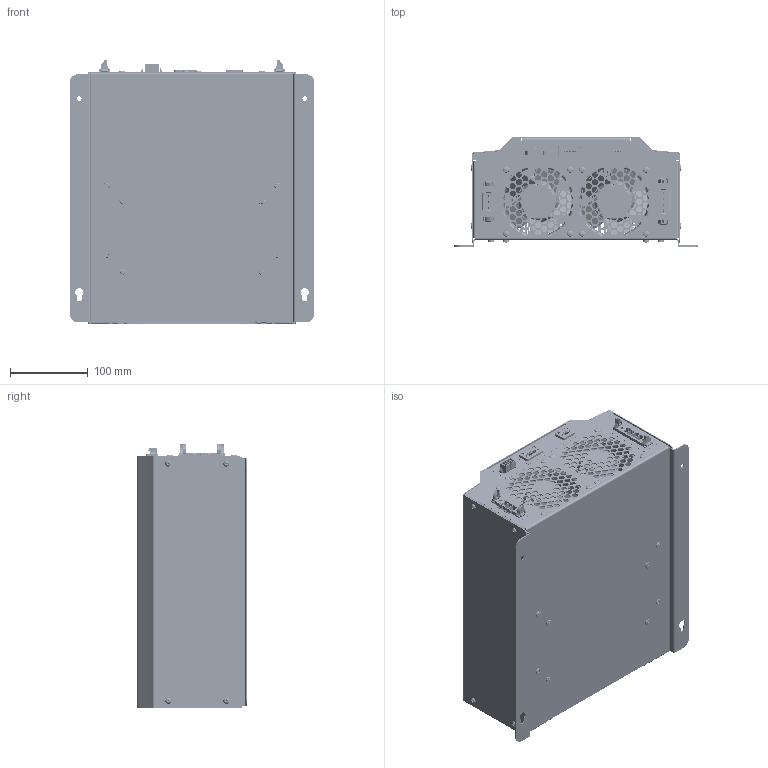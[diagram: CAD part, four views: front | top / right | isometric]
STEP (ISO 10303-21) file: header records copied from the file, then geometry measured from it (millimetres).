
FILE_DESCRIPTION (( 'STEP AP214' ), '1' );
FILE_NAME ('MP0030_01 - BOX4KW.STEP', '2023-05-09T07:05:33', ( '' ), ( '' ), 'SwSTEP 2.0', 'SolidWorks 2022', '' );
FILE_SCHEMA (( 'AUTOMOTIVE_DESIGN' ));
Length unit declared in the file: millimetre
Products named in the file (54): Cablaggio_interno_01^MP0030_01; MP0002_01; PD00030_01_MP0002_01-targa; EL0002_03-SMD; CB00004_01; PC00044_01_NoWires; PD00045_02_NoWires; PC00001_03; PD00018_02; PC00023_02; CB00072_02; EL0002_03-PTH-1; PC00053_01; PC00030_02; PC00017_02; AD00134_01; AD00098_01; PD00031_01; PC00018_02; PC00058_01_NoWires; PD00010_02-01; PD00018_01; PC00047_01; PC00039_01; EL0002_03-PTH; PD00015_01; PC00017_01; PD00138_01; PC00001_02; PD00033_01; CB00003_01; Cablaggio_interno_02^MP0030_01; PD00045_01_NoWires; 0.060.307.00002; PC00001_01; MP0030_01 - BOX4KW; PD00013_01; PC00061_01; PC00018_01; Resina^MP0002_01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
Assembly tree (127 placements, depth 6):
  MP0030_01 - BOX4KW
    PD00010_02
      PD00010_02-01
      PC00047_01  x16
    PD00031_01
    PD00032_01
    PD00033_01
    PD00138_01
    PC00044_01_NoWires  x2
    PC00061_01  x8
    PC00018_02
    PC00018_01
    PC00039_01  x4
    PC00025_01  x4
    PC00017_01
    PC00017_02
    CB00003_01  x3
    CB00002_01
    CB00004_01
    PC00053_01
    Cablaggio_interno_01^MP0030_01
    Cablaggio_interno_02^MP0030_01
    PC00137_01
    CB00072_02
    PC00023_02  x14
    MP0002_01
      ME0002_03
        PD00015_01
        PD00014_01
        PC00001_01  x14
        PD00018_02
        PD00018_01
        PC00045_02  x4
        EL0002_03-PTH
          EL0002_03-SMD
            0.060.307.00002
            EL0002_03-SMD-1
          EL0002_03-PTH-1
          PD00045_01_NoWires
          PD00045_02_NoWires
          PC00066_01
          PC00058_01_NoWires
          ntc wires^EL0002_03-PTH
          AD00116_01  x4
          AD00098_01  x3
          AD00134_01  x3
        PC00001_03
        PC00001_02  x4
      Resina^MP0002_01
      PD00030_01_MP0002_01-code
      PD00030_01_MP0002_01-targa
    PD00013_01  x2
    PC00030_02  x4
    PD00011_01
Bounding box: 315 x 141.3 x 341.84 mm (x, y, z)
Volume: 2188358.2 mm3; surface area: 1572089.4 mm2
Topology: 831 solids, 831 shells, 32984 faces, 84404 edges, 53814 vertices
Faces by surface type: plane 22569, cylinder 7454, bspline 1498, cone 713, torus 634, sphere 116
Entity records: 1364671 total; most frequent: CARTESIAN_POINT 393890, ORIENTED_EDGE 147178, DIRECTION 135287, EDGE_CURVE 73589, LINE 57399, VECTOR 57399, VERTEX_POINT 46858, AXIS2_PLACEMENT_3D 38944
